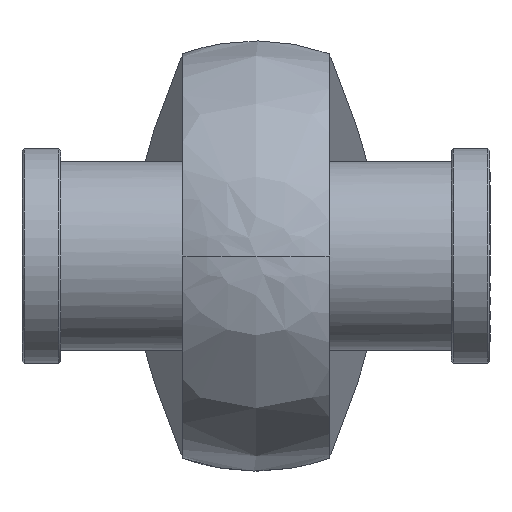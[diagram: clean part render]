
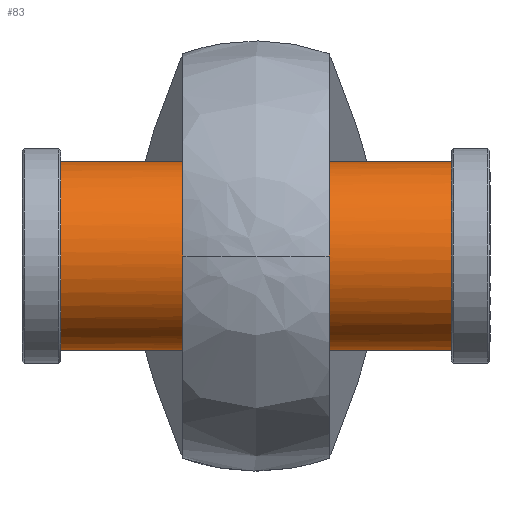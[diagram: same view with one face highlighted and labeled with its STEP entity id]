
A CAD part, left-side view. The second image highlights one B-rep face of the part: STEP entity #83.
In plain terms, the highlighted cylindrical face has radius 22 mm (diameter 44 mm), a full revolution.
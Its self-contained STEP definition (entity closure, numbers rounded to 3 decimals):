
#83=ADVANCED_FACE('',(#157),#1214,.T.);
#157=FACE_OUTER_BOUND('',#238,.T.);
#238=EDGE_LOOP('',(#506,#507,#508,#509));
#506=ORIENTED_EDGE('',*,*,#774,.T.);
#507=ORIENTED_EDGE('',*,*,#776,.T.);
#508=ORIENTED_EDGE('',*,*,#775,.T.);
#509=ORIENTED_EDGE('',*,*,#776,.F.);
#774=EDGE_CURVE('',#1128,#1128,#983,.T.);
#775=EDGE_CURVE('',#1129,#1129,#984,.T.);
#776=EDGE_CURVE('',#1128,#1129,#897,.T.);
#897=B_SPLINE_CURVE_WITH_KNOTS('',1,(#2248,#2249),.UNSPECIFIED.,.F.,.F.,
(2,2),(9.199,99.991),.UNSPECIFIED.);
#983=(
BOUNDED_CURVE()
B_SPLINE_CURVE(2,(#2230,#2231,#2232,#2233,#2234,#2235,#2236,#2237,#2238),
 .UNSPECIFIED.,.T.,.F.)
B_SPLINE_CURVE_WITH_KNOTS((3,2,2,2,3),(0.,34.558,69.115,
103.673,138.23),.UNSPECIFIED.)
CURVE()
GEOMETRIC_REPRESENTATION_ITEM()
RATIONAL_B_SPLINE_CURVE((1.,0.707,1.,0.707,1.,0.707,
1.,0.707,1.))
REPRESENTATION_ITEM('')
);
#984=(
BOUNDED_CURVE()
B_SPLINE_CURVE(2,(#2239,#2240,#2241,#2242,#2243,#2244,#2245,#2246,#2247),
 .UNSPECIFIED.,.T.,.F.)
B_SPLINE_CURVE_WITH_KNOTS((3,2,2,2,3),(0.,34.558,69.115,
103.673,138.23),.UNSPECIFIED.)
CURVE()
GEOMETRIC_REPRESENTATION_ITEM()
RATIONAL_B_SPLINE_CURVE((1.,0.707,1.,0.707,1.,0.707,
1.,0.707,1.))
REPRESENTATION_ITEM('')
);
#1128=VERTEX_POINT('',#2182);
#1129=VERTEX_POINT('',#2183);
#1214=CYLINDRICAL_SURFACE('',#1366,22.);
#1366=AXIS2_PLACEMENT_3D('',#2172,#1412,$);
#1412=DIRECTION('',(0.,-1.,0.));
#2172=CARTESIAN_POINT('',(0.,0.,0.));
#2182=CARTESIAN_POINT('',(22.,45.396,0.));
#2183=CARTESIAN_POINT('',(22.,-45.396,0.));
#2230=CARTESIAN_POINT('',(22.,45.396,0.));
#2231=CARTESIAN_POINT('',(22.,45.396,22.));
#2232=CARTESIAN_POINT('',(0.,45.396,22.));
#2233=CARTESIAN_POINT('',(-22.,45.396,22.));
#2234=CARTESIAN_POINT('',(-22.,45.396,0.));
#2235=CARTESIAN_POINT('',(-22.,45.396,-22.));
#2236=CARTESIAN_POINT('',(0.,45.396,-22.));
#2237=CARTESIAN_POINT('',(22.,45.396,-22.));
#2238=CARTESIAN_POINT('',(22.,45.396,0.));
#2239=CARTESIAN_POINT('',(22.,-45.396,0.));
#2240=CARTESIAN_POINT('',(22.,-45.396,-22.));
#2241=CARTESIAN_POINT('',(0.,-45.396,-22.));
#2242=CARTESIAN_POINT('',(-22.,-45.396,-22.));
#2243=CARTESIAN_POINT('',(-22.,-45.396,0.));
#2244=CARTESIAN_POINT('',(-22.,-45.396,22.));
#2245=CARTESIAN_POINT('',(0.,-45.396,22.));
#2246=CARTESIAN_POINT('',(22.,-45.396,22.));
#2247=CARTESIAN_POINT('',(22.,-45.396,0.));
#2248=CARTESIAN_POINT('',(22.,45.396,0.));
#2249=CARTESIAN_POINT('',(22.,-45.396,0.));
